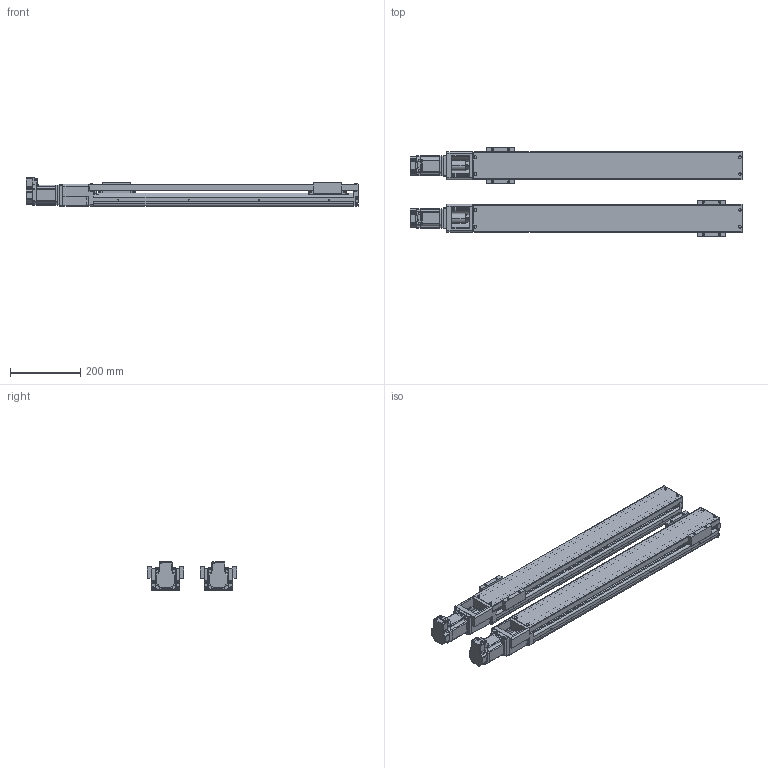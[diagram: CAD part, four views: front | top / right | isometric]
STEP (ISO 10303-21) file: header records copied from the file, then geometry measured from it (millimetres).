
FILE_DESCRIPTION(('STEP AP214'),'1');
FILE_NAME('C:\Users\RA\Desktop\作業\防塵\3D\砲台なし\DXF\2015.11.11\3D\tmp0.step',' ',(' '),(' '),'XStep 1.0',' ',' ');
FILE_SCHEMA(('automotive_design'));
Length unit declared in the file: millimetre
Products named in the file (42): 108; 102; 67; 104; 70; 112; 100; 103; 105; 109; 110; 106; 68; 111; 69; 101; 107; KR45H10A-0600-0-10A0(0-01)|_KR45H0A-740L-1A0(1_DM)-BodyCS;_KR45H0A-740L-1A0(1_DM)-BodyCS; KR45H10A-0600-0-10A0(0-01)|_KR45H(A600111)-SliderCS;_KR45H(A600111)-SliderCS; KR45H10A-0600-0-10A0(0-01)|_KR45H-A(1)-Slider SpacerCS;_KR45H-A(1)-Slider SpacerCS; KR45H10A-0600-0-10A0(0-01)|_KR45H-740-Protected CoverCS;_KR45H-740-Protected CoverCS
Bounding box: 945 x 254 x 81.86 mm (x, y, z)
Volume: 4308725.3 mm3; surface area: 1205277.6 mm2
Topology: 42 solids, 42 shells, 3344 faces, 8554 edges, 5346 vertices
Faces by surface type: plane 1584, cylinder 1138, cone 412, torus 150, bspline 56, sphere 4
Entity records: 131559 total; most frequent: CARTESIAN_POINT 21510, DIRECTION 17796, ORIENTED_EDGE 16796, EDGE_CURVE 8398, AXIS2_PLACEMENT_3D 6238, VERTEX_POINT 5344, LINE 5320, VECTOR 5320
